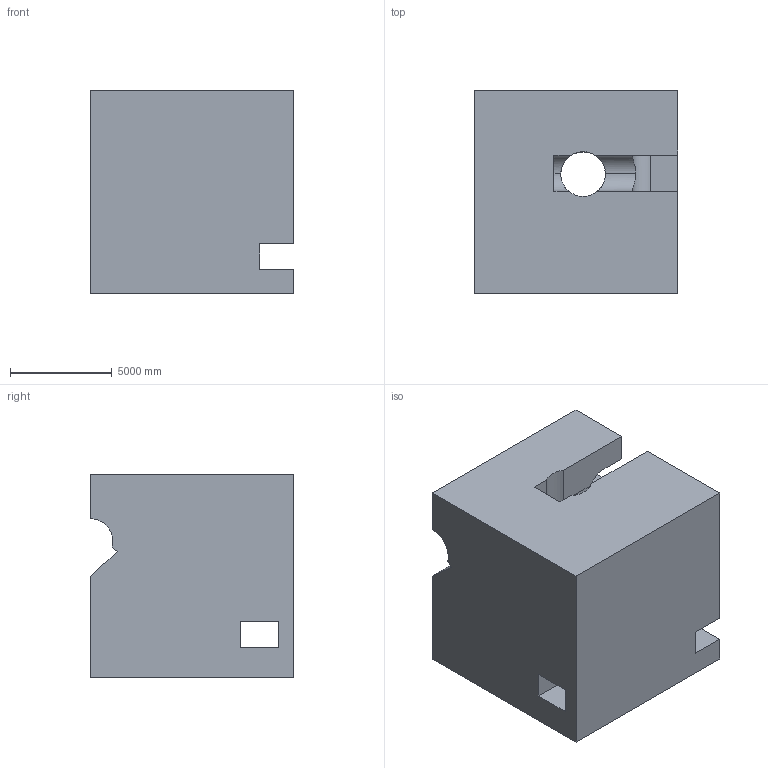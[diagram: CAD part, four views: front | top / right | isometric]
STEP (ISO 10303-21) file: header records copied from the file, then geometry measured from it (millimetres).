
FILE_DESCRIPTION (( 'STEP AP203' ), '1' );
FILE_NAME ('880.STEP', '2022-07-29T13:57:16', ( 'user' ), ( '' ), 'SwSTEP 2.0', 'SolidWorks 2021', '' );
FILE_SCHEMA (( 'CONFIG_CONTROL_DESIGN' ));
Length unit declared in the file: centimetre
Products named in the file (1): 880
Bounding box: 10000 x 10000 x 10000 mm (x, y, z)
Volume: 834107184330.5 mm3; surface area: 787871169 mm2
Topology: 1 solids, 1 shells, 46 faces, 141 edges, 94 vertices
Faces by surface type: plane 35, cylinder 11
Entity records: 2423 total; most frequent: CARTESIAN_POINT 1078, ORIENTED_EDGE 282, DIRECTION 244, EDGE_CURVE 141, LINE 108, VECTOR 108, VERTEX_POINT 94, AXIS2_PLACEMENT_3D 68
